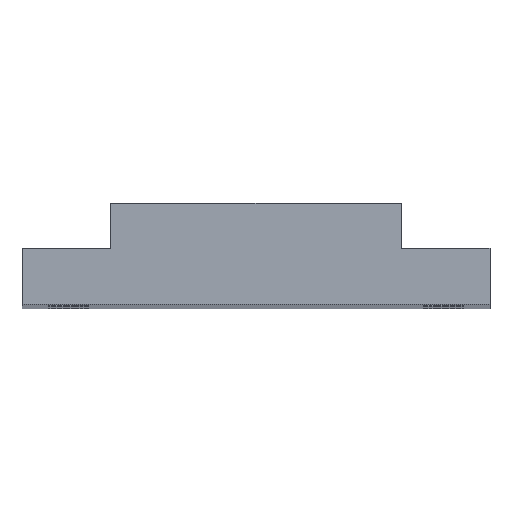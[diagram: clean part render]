
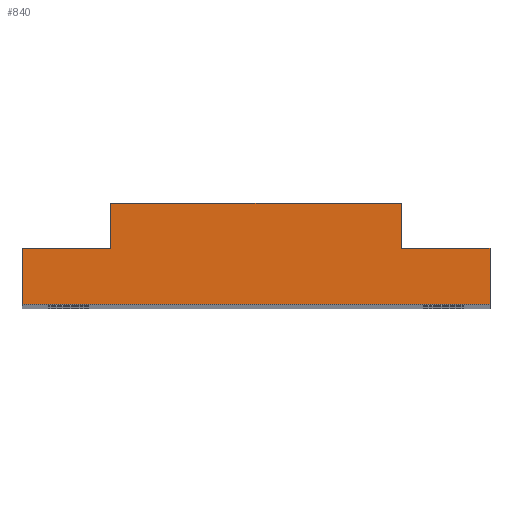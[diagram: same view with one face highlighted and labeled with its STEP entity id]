
A CAD part, top view. The second image highlights one B-rep face of the part: STEP entity #840.
In plain terms, the highlighted planar face has unit normal (0, 0, 1).
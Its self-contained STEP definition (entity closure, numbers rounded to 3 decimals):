
#29 = DIRECTION ( 'NONE',  ( 0., 0., 1. ) ) ;
#85 = EDGE_CURVE ( 'NONE', #668, #145, #778, .T. ) ;
#126 = ORIENTED_EDGE ( 'NONE', *, *, #2150, .T. ) ;
#145 = VERTEX_POINT ( 'NONE', #1657 ) ;
#179 = CARTESIAN_POINT ( 'NONE',  ( -25., 3., 252. ) ) ;
#193 = CARTESIAN_POINT ( 'NONE',  ( -25., 3., 252. ) ) ;
#199 = EDGE_CURVE ( 'NONE', #2107, #888, #799, .T. ) ;
#251 = VECTOR ( 'NONE', #2090, 1000. ) ;
#292 = CARTESIAN_POINT ( 'NONE',  ( 15.5, 7.8, 252. ) ) ;
#297 = CARTESIAN_POINT ( 'NONE',  ( -25., 3., 252. ) ) ;
#347 = DIRECTION ( 'NONE',  ( 0., 1., 0. ) ) ;
#383 = CARTESIAN_POINT ( 'NONE',  ( 25., -3., 252. ) ) ;
#412 = LINE ( 'NONE', #768, #251 ) ;
#420 = CARTESIAN_POINT ( 'NONE',  ( 15.5, 3., 252. ) ) ;
#440 = EDGE_CURVE ( 'NONE', #888, #668, #412, .T. ) ;
#443 = CARTESIAN_POINT ( 'NONE',  ( -15.5, 3., 252. ) ) ;
#614 = DIRECTION ( 'NONE',  ( 1., 0., 0. ) ) ;
#629 = LINE ( 'NONE', #1283, #1307 ) ;
#634 = DIRECTION ( 'NONE',  ( 0., -1., 0. ) ) ;
#644 = DIRECTION ( 'NONE',  ( 0., 1., 0. ) ) ;
#659 = DIRECTION ( 'NONE',  ( -1., 0., 0. ) ) ;
#668 = VERTEX_POINT ( 'NONE', #292 ) ;
#689 = DIRECTION ( 'NONE',  ( 1., 0., 0. ) ) ;
#764 = EDGE_CURVE ( 'NONE', #2123, #145, #797, .T. ) ;
#768 = CARTESIAN_POINT ( 'NONE',  ( 15.5, 7.8, 252. ) ) ;
#778 = LINE ( 'NONE', #420, #941 ) ;
#786 = EDGE_CURVE ( 'NONE', #977, #2123, #1883, .T. ) ;
#797 = LINE ( 'NONE', #297, #1093 ) ;
#799 = LINE ( 'NONE', #1014, #1141 ) ;
#840 = ADVANCED_FACE ( 'NONE', ( #1596 ), #1043, .T. ) ;
#888 = VERTEX_POINT ( 'NONE', #1705 ) ;
#930 = LINE ( 'NONE', #1423, #1458 ) ;
#941 = VECTOR ( 'NONE', #634, 1000. ) ;
#950 = ORIENTED_EDGE ( 'NONE', *, *, #85, .F. ) ;
#977 = VERTEX_POINT ( 'NONE', #383 ) ;
#1014 = CARTESIAN_POINT ( 'NONE',  ( -15.5, 3., 252. ) ) ;
#1039 = DIRECTION ( 'NONE',  ( 0., -1., 0. ) ) ;
#1043 = PLANE ( 'NONE',  #1084 ) ;
#1084 = AXIS2_PLACEMENT_3D ( 'NONE', #1183, #29, #689 ) ;
#1093 = VECTOR ( 'NONE', #659, 1000. ) ;
#1141 = VECTOR ( 'NONE', #347, 1000. ) ;
#1183 = CARTESIAN_POINT ( 'NONE',  ( 0., 0., 252. ) ) ;
#1283 = CARTESIAN_POINT ( 'NONE',  ( -25., -3., 252. ) ) ;
#1302 = ORIENTED_EDGE ( 'NONE', *, *, #199, .F. ) ;
#1305 = ORIENTED_EDGE ( 'NONE', *, *, #1412, .T. ) ;
#1307 = VECTOR ( 'NONE', #614, 1000. ) ;
#1315 = ORIENTED_EDGE ( 'NONE', *, *, #440, .F. ) ;
#1317 = LINE ( 'NONE', #179, #1723 ) ;
#1412 = EDGE_CURVE ( 'NONE', #1874, #1719, #1317, .T. ) ;
#1423 = CARTESIAN_POINT ( 'NONE',  ( -25., 3., 252. ) ) ;
#1441 = CARTESIAN_POINT ( 'NONE',  ( 25., 3., 252. ) ) ;
#1458 = VECTOR ( 'NONE', #2070, 1000. ) ;
#1558 = EDGE_CURVE ( 'NONE', #2107, #1874, #930, .T. ) ;
#1576 = ORIENTED_EDGE ( 'NONE', *, *, #1558, .T. ) ;
#1596 = FACE_OUTER_BOUND ( 'NONE', #1927, .T. ) ;
#1627 = ORIENTED_EDGE ( 'NONE', *, *, #764, .T. ) ;
#1657 = CARTESIAN_POINT ( 'NONE',  ( 15.5, 3., 252. ) ) ;
#1705 = CARTESIAN_POINT ( 'NONE',  ( -15.5, 7.8, 252. ) ) ;
#1719 = VERTEX_POINT ( 'NONE', #2159 ) ;
#1722 = ORIENTED_EDGE ( 'NONE', *, *, #786, .T. ) ;
#1723 = VECTOR ( 'NONE', #1039, 1000. ) ;
#1874 = VERTEX_POINT ( 'NONE', #193 ) ;
#1883 = LINE ( 'NONE', #1998, #1983 ) ;
#1927 = EDGE_LOOP ( 'NONE', ( #1722, #1627, #950, #1315, #1302, #1576, #1305, #126 ) ) ;
#1983 = VECTOR ( 'NONE', #644, 1000. ) ;
#1998 = CARTESIAN_POINT ( 'NONE',  ( 25., 3., 252. ) ) ;
#2070 = DIRECTION ( 'NONE',  ( -1., 0., 0. ) ) ;
#2090 = DIRECTION ( 'NONE',  ( 1., 0., 0. ) ) ;
#2107 = VERTEX_POINT ( 'NONE', #443 ) ;
#2123 = VERTEX_POINT ( 'NONE', #1441 ) ;
#2150 = EDGE_CURVE ( 'NONE', #1719, #977, #629, .T. ) ;
#2159 = CARTESIAN_POINT ( 'NONE',  ( -25., -3., 252. ) ) ;
